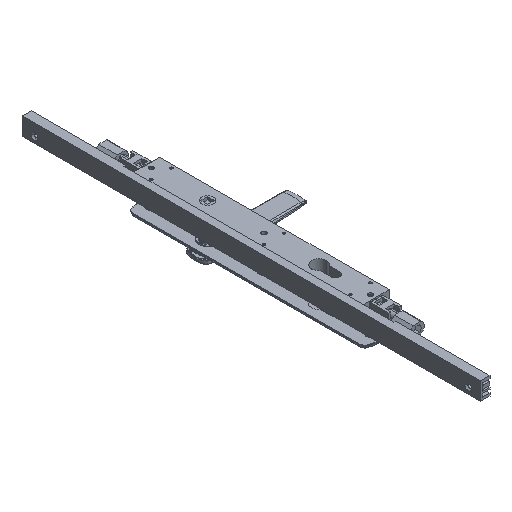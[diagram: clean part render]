
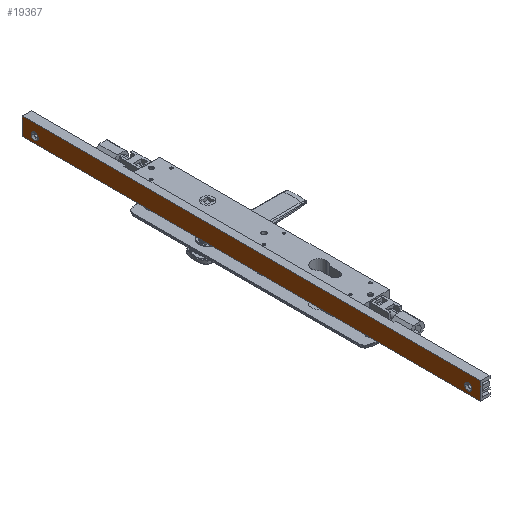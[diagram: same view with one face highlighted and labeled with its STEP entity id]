
A CAD part, isometric view. The second image highlights one B-rep face of the part: STEP entity #19367.
In plain terms, the highlighted planar face has unit normal (-1, 0, 0) as drawn and (0, 1, 0) by its records, which use the part's own axes.
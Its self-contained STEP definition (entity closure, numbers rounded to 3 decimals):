
#1449 = CARTESIAN_POINT ( 'NONE',  ( 19.3, 12.4, 0. ) ) ;
#2325 = CARTESIAN_POINT ( 'NONE',  ( -1.7, 12.4, 544. ) ) ;
#2830 = VERTEX_POINT ( 'NONE', #2325 ) ;
#2980 = EDGE_CURVE ( 'NONE', #2830, #23350, #14496, .T. ) ;
#3299 = ORIENTED_EDGE ( 'NONE', *, *, #5621, .F. ) ;
#3995 = VECTOR ( 'NONE', #12379, 1000. ) ;
#4659 = ORIENTED_EDGE ( 'NONE', *, *, #24408, .F. ) ;
#4959 = CIRCLE ( 'NONE', #16236, 4.216 ) ;
#5081 = EDGE_LOOP ( 'NONE', ( #17757, #3299 ) ) ;
#5153 = FACE_BOUND ( 'NONE', #23869, .T. ) ;
#5322 = VERTEX_POINT ( 'NONE', #1449 ) ;
#5621 = EDGE_CURVE ( 'NONE', #13455, #20789, #4959, .T. ) ;
#5684 = CARTESIAN_POINT ( 'NONE',  ( 11.8, 12.4, 529. ) ) ;
#6020 = VECTOR ( 'NONE', #7686, 1000. ) ;
#6352 = CARTESIAN_POINT ( 'NONE',  ( 19.3, 12.4, 544. ) ) ;
#6538 = EDGE_LOOP ( 'NONE', ( #4659, #25727, #12139, #21203 ) ) ;
#6996 = PLANE ( 'NONE',  #22704 ) ;
#7253 = DIRECTION ( 'NONE',  ( 0., 1., 0. ) ) ;
#7285 = AXIS2_PLACEMENT_3D ( 'NONE', #13696, #20582, #22305 ) ;
#7397 = EDGE_CURVE ( 'NONE', #16101, #19735, #7738, .T. ) ;
#7686 = DIRECTION ( 'NONE',  ( -1., 0., 0. ) ) ;
#7738 = CIRCLE ( 'NONE', #7285, 4.216 ) ;
#7805 = DIRECTION ( 'NONE',  ( 0., 0., 1. ) ) ;
#8740 = ORIENTED_EDGE ( 'NONE', *, *, #20570, .F. ) ;
#8794 = CARTESIAN_POINT ( 'NONE',  ( -1.7, 12.4, 0. ) ) ;
#10004 = CARTESIAN_POINT ( 'NONE',  ( 11.8, 12.4, 10.784 ) ) ;
#10304 = EDGE_CURVE ( 'NONE', #20789, #13455, #17915, .T. ) ;
#10536 = DIRECTION ( 'NONE',  ( -1., 0., 0. ) ) ;
#10675 = CARTESIAN_POINT ( 'NONE',  ( 20.8, 12.4, 0. ) ) ;
#10865 = LINE ( 'NONE', #6352, #20055 ) ;
#11650 = VERTEX_POINT ( 'NONE', #26726 ) ;
#11656 = CARTESIAN_POINT ( 'NONE',  ( 11.8, 12.4, 15. ) ) ;
#12139 = ORIENTED_EDGE ( 'NONE', *, *, #18397, .T. ) ;
#12379 = DIRECTION ( 'NONE',  ( 0., 0., -1. ) ) ;
#13455 = VERTEX_POINT ( 'NONE', #24931 ) ;
#13514 = DIRECTION ( 'NONE',  ( 0., 1., 0. ) ) ;
#13648 = VECTOR ( 'NONE', #10536, 1000. ) ;
#13696 = CARTESIAN_POINT ( 'NONE',  ( 11.8, 12.4, 15. ) ) ;
#14496 = LINE ( 'NONE', #23114, #3995 ) ;
#14967 = DIRECTION ( 'NONE',  ( 0., 0., -1. ) ) ;
#15193 = AXIS2_PLACEMENT_3D ( 'NONE', #22555, #13514, #24385 ) ;
#15613 = DIRECTION ( 'NONE',  ( 0., 1., 0. ) ) ;
#15621 = CARTESIAN_POINT ( 'NONE',  ( 20.8, 12.4, 544. ) ) ;
#16101 = VERTEX_POINT ( 'NONE', #10004 ) ;
#16236 = AXIS2_PLACEMENT_3D ( 'NONE', #5684, #7253, #7805 ) ;
#17753 = FACE_BOUND ( 'NONE', #5081, .T. ) ;
#17757 = ORIENTED_EDGE ( 'NONE', *, *, #10304, .F. ) ;
#17915 = CIRCLE ( 'NONE', #15193, 4.216 ) ;
#18397 = EDGE_CURVE ( 'NONE', #5322, #23350, #21685, .T. ) ;
#19126 = CIRCLE ( 'NONE', #23189, 4.216 ) ;
#19367 = ADVANCED_FACE ( 'NONE', ( #5153, #17753, #26352 ), #6996, .F. ) ;
#19735 = VERTEX_POINT ( 'NONE', #26891 ) ;
#20055 = VECTOR ( 'NONE', #14967, 1000. ) ;
#20532 = CARTESIAN_POINT ( 'NONE',  ( 11.8, 12.4, 533.216 ) ) ;
#20570 = EDGE_CURVE ( 'NONE', #19735, #16101, #19126, .T. ) ;
#20582 = DIRECTION ( 'NONE',  ( 0., 1., 0. ) ) ;
#20789 = VERTEX_POINT ( 'NONE', #20532 ) ;
#21203 = ORIENTED_EDGE ( 'NONE', *, *, #2980, .F. ) ;
#21685 = LINE ( 'NONE', #10675, #13648 ) ;
#22101 = DIRECTION ( 'NONE',  ( 0., -1., 0. ) ) ;
#22305 = DIRECTION ( 'NONE',  ( 0., 0., 1. ) ) ;
#22389 = DIRECTION ( 'NONE',  ( 0., 0., 1. ) ) ;
#22555 = CARTESIAN_POINT ( 'NONE',  ( 11.8, 12.4, 529. ) ) ;
#22704 = AXIS2_PLACEMENT_3D ( 'NONE', #15621, #22101, #24366 ) ;
#22816 = LINE ( 'NONE', #27055, #6020 ) ;
#23114 = CARTESIAN_POINT ( 'NONE',  ( -1.7, 12.4, 544. ) ) ;
#23189 = AXIS2_PLACEMENT_3D ( 'NONE', #11656, #15613, #22389 ) ;
#23350 = VERTEX_POINT ( 'NONE', #8794 ) ;
#23869 = EDGE_LOOP ( 'NONE', ( #8740, #27328 ) ) ;
#24366 = DIRECTION ( 'NONE',  ( 1., 0., 0. ) ) ;
#24385 = DIRECTION ( 'NONE',  ( 0., 0., 1. ) ) ;
#24408 = EDGE_CURVE ( 'NONE', #11650, #2830, #22816, .T. ) ;
#24635 = EDGE_CURVE ( 'NONE', #11650, #5322, #10865, .T. ) ;
#24931 = CARTESIAN_POINT ( 'NONE',  ( 11.8, 12.4, 524.784 ) ) ;
#25727 = ORIENTED_EDGE ( 'NONE', *, *, #24635, .T. ) ;
#26352 = FACE_OUTER_BOUND ( 'NONE', #6538, .T. ) ;
#26726 = CARTESIAN_POINT ( 'NONE',  ( 19.3, 12.4, 544. ) ) ;
#26891 = CARTESIAN_POINT ( 'NONE',  ( 11.8, 12.4, 19.216 ) ) ;
#27055 = CARTESIAN_POINT ( 'NONE',  ( 20.8, 12.4, 544. ) ) ;
#27328 = ORIENTED_EDGE ( 'NONE', *, *, #7397, .F. ) ;
